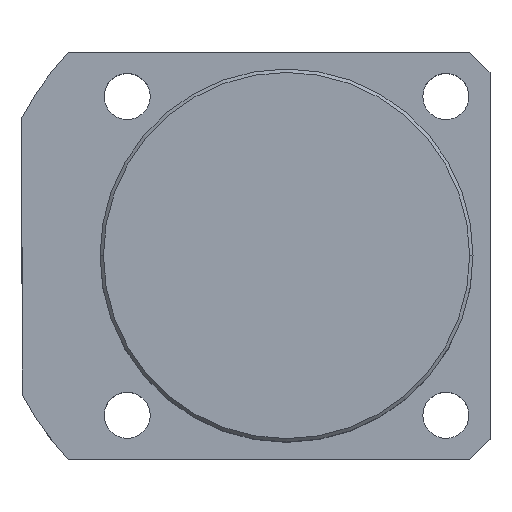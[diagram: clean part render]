
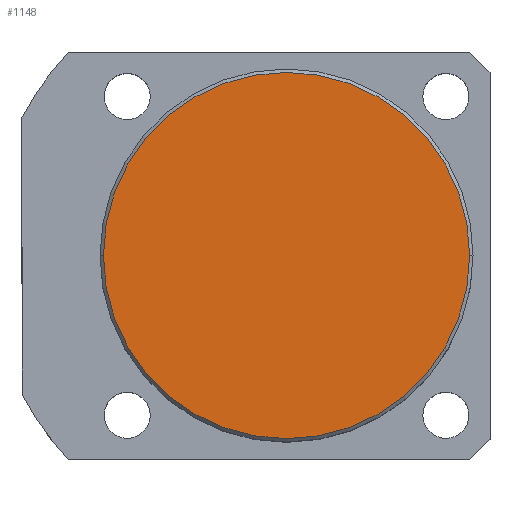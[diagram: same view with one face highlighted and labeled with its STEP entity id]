
A CAD part, top view. The second image highlights one B-rep face of the part: STEP entity #1148.
In plain terms, the highlighted planar face has unit normal (0, 0, 1).
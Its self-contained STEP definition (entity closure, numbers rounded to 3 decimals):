
#32 = CARTESIAN_POINT ( 'NONE',  ( 0., 0., 40. ) ) ;
#144 = PLANE ( 'NONE',  #149 ) ;
#149 = AXIS2_PLACEMENT_3D ( 'NONE', #32, #4744, #4253 ) ;
#252 = DIRECTION ( 'NONE',  ( 1., 0., 0. ) ) ;
#273 = DIRECTION ( 'NONE',  ( 0., 0., 1. ) ) ;
#517 = AXIS2_PLACEMENT_3D ( 'NONE', #3805, #3782, #3750 ) ;
#708 = CARTESIAN_POINT ( 'NONE',  ( 0., 0., 40. ) ) ;
#791 = ORIENTED_EDGE ( 'NONE', *, *, #841, .T. ) ;
#841 = EDGE_CURVE ( 'NONE', #848, #4430, #931, .T. ) ;
#848 = VERTEX_POINT ( 'NONE', #4963 ) ;
#931 = CIRCLE ( 'NONE', #517, 27. ) ;
#1148 = ADVANCED_FACE ( 'NONE', ( #2188 ), #144, .T. ) ;
#1289 = EDGE_CURVE ( 'NONE', #4430, #848, #3690, .T. ) ;
#1318 = EDGE_LOOP ( 'NONE', ( #791, #3794 ) ) ;
#2188 = FACE_OUTER_BOUND ( 'NONE', #1318, .T. ) ;
#2576 = AXIS2_PLACEMENT_3D ( 'NONE', #708, #273, #252 ) ;
#3690 = CIRCLE ( 'NONE', #2576, 27. ) ;
#3750 = DIRECTION ( 'NONE',  ( 1., 0., 0. ) ) ;
#3782 = DIRECTION ( 'NONE',  ( 0., 0., 1. ) ) ;
#3794 = ORIENTED_EDGE ( 'NONE', *, *, #1289, .T. ) ;
#3805 = CARTESIAN_POINT ( 'NONE',  ( 0., 0., 40. ) ) ;
#4253 = DIRECTION ( 'NONE',  ( 1., 0., 0. ) ) ;
#4430 = VERTEX_POINT ( 'NONE', #4927 ) ;
#4744 = DIRECTION ( 'NONE',  ( 0., 0., 1. ) ) ;
#4927 = CARTESIAN_POINT ( 'NONE',  ( 27., 0., 40. ) ) ;
#4963 = CARTESIAN_POINT ( 'NONE',  ( -27., 0., 40. ) ) ;
